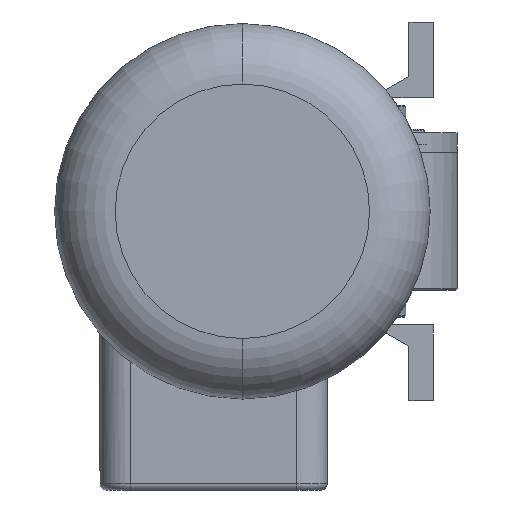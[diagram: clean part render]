
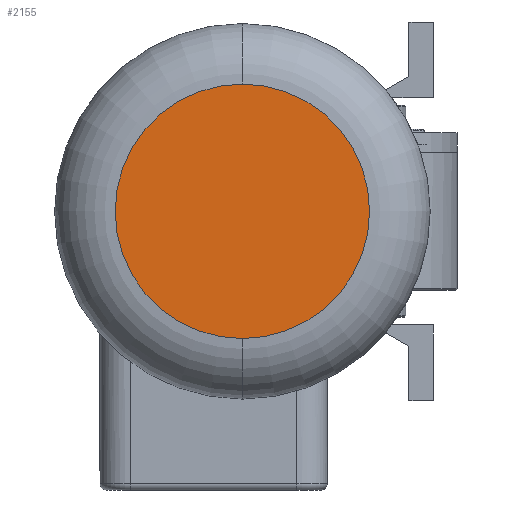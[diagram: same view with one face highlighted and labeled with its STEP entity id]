
A CAD part, left-side view. The second image highlights one B-rep face of the part: STEP entity #2155.
In plain terms, the highlighted planar face has unit normal (-1, 0, 0).
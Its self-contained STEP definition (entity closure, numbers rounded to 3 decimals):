
#632 = DIRECTION ( 'NONE',  ( 0., 0., -1. ) ) ;
#703 = CARTESIAN_POINT ( 'NONE',  ( 0., 0., 0. ) ) ;
#1562 = CIRCLE ( 'NONE', #4993, 42. ) ;
#1862 = AXIS2_PLACEMENT_3D ( 'NONE', #10852, #6322, #8696 ) ;
#2155 = ADVANCED_FACE ( 'NONE', ( #2627 ), #7004, .F. ) ;
#2627 = FACE_OUTER_BOUND ( 'NONE', #4242, .T. ) ;
#2698 = CARTESIAN_POINT ( 'NONE',  ( 0., 0., 0. ) ) ;
#3172 = CARTESIAN_POINT ( 'NONE',  ( 0., 0., -42. ) ) ;
#3240 = CIRCLE ( 'NONE', #1862, 42. ) ;
#3996 = DIRECTION ( 'NONE',  ( 1., 0., 0. ) ) ;
#4242 = EDGE_LOOP ( 'NONE', ( #7576, #6461 ) ) ;
#4993 = AXIS2_PLACEMENT_3D ( 'NONE', #703, #13841, #632 ) ;
#5004 = AXIS2_PLACEMENT_3D ( 'NONE', #2698, #3996, #7084 ) ;
#6322 = DIRECTION ( 'NONE',  ( -1., 0., 0. ) ) ;
#6461 = ORIENTED_EDGE ( 'NONE', *, *, #12184, .T. ) ;
#7004 = PLANE ( 'NONE',  #5004 ) ;
#7084 = DIRECTION ( 'NONE',  ( 0., 0., -1. ) ) ;
#7576 = ORIENTED_EDGE ( 'NONE', *, *, #8607, .T. ) ;
#7766 = VERTEX_POINT ( 'NONE', #13824 ) ;
#8607 = EDGE_CURVE ( 'NONE', #9912, #7766, #1562, .T. ) ;
#8696 = DIRECTION ( 'NONE',  ( 0., 0., -1. ) ) ;
#9912 = VERTEX_POINT ( 'NONE', #3172 ) ;
#10852 = CARTESIAN_POINT ( 'NONE',  ( 0., 0., 0. ) ) ;
#12184 = EDGE_CURVE ( 'NONE', #7766, #9912, #3240, .T. ) ;
#13824 = CARTESIAN_POINT ( 'NONE',  ( 0., 0., 42. ) ) ;
#13841 = DIRECTION ( 'NONE',  ( -1., 0., 0. ) ) ;
